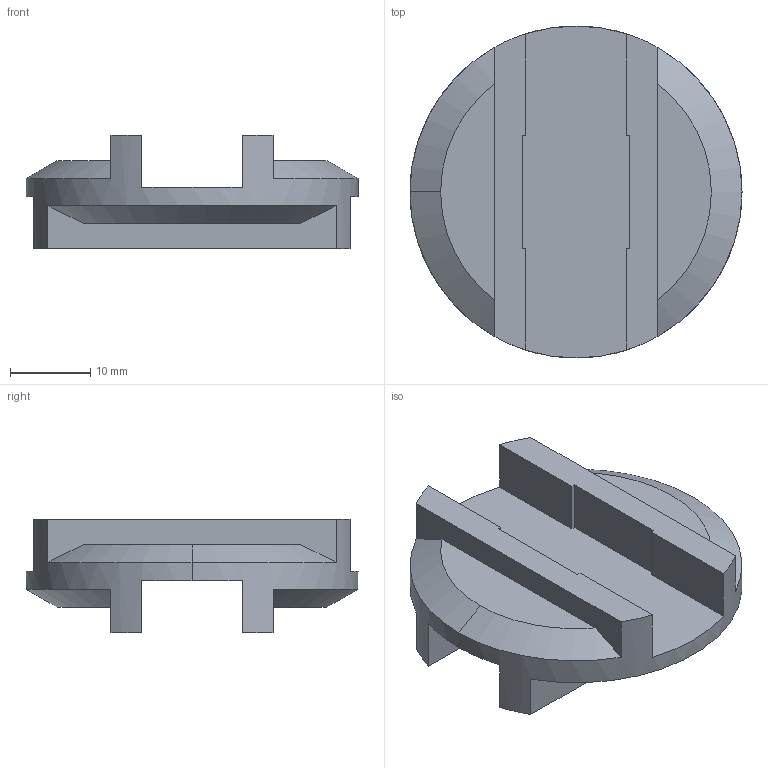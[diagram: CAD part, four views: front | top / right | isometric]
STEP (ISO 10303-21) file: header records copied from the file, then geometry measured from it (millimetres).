
FILE_DESCRIPTION((''),'2;1');
FILE_NAME('OD26-41','2016-09-09T',('SYSTEM'),(''),'PRO/ENGINEER BY PARAMETRIC TECHNOLOGY CORPORATION, 2015110','PRO/ENGINEER BY PARAMETRIC TECHNOLOGY CORPORATION, 2015110','');
FILE_SCHEMA(('AUTOMOTIVE_DESIGN { 1 0 10303 214 1 1 1 1 }'));
Length unit declared in the file: inch
Products named in the file (1): OD26-41
Bounding box: 41.27 x 41.27 x 14.1 mm (x, y, z)
Volume: 8018.6 mm3; surface area: 4858.4 mm2
Topology: 1 solids, 1 shells, 41 faces, 117 edges, 78 vertices
Faces by surface type: plane 34, cone 5, cylinder 2
Entity records: 1705 total; most frequent: CARTESIAN_POINT 272, ORIENTED_EDGE 234, DIRECTION 217, EDGE_CURVE 117, VECTOR 83, LINE 83, VERTEX_POINT 78, AXIS2_PLACEMENT_3D 67
